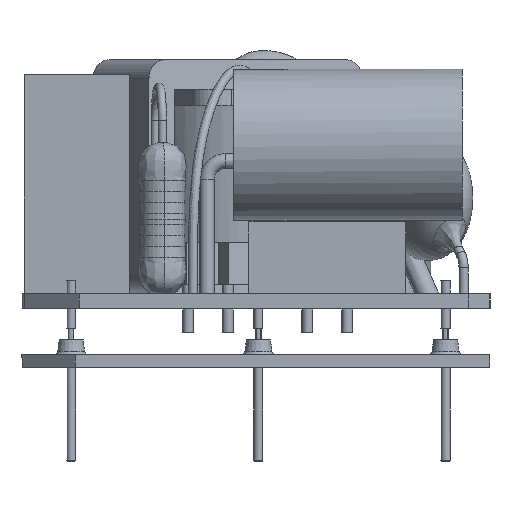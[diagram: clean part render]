
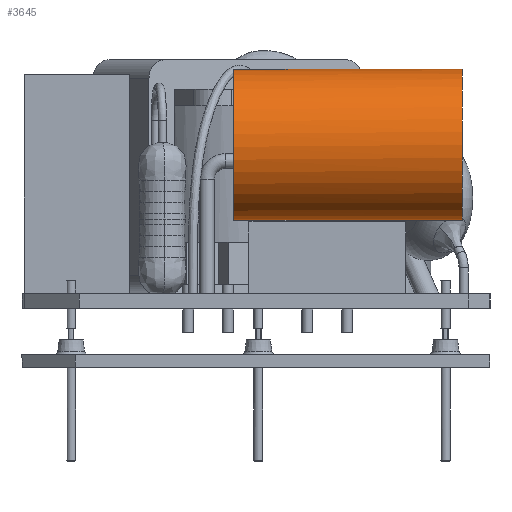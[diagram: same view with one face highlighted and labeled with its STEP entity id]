
A CAD part, left-side view. The second image highlights one B-rep face of the part: STEP entity #3645.
In plain terms, the highlighted cylindrical face has radius 4.1 mm (diameter 8.2 mm), a full revolution.
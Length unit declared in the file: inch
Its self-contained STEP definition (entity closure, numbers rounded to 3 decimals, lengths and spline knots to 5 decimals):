
#125 = CARTESIAN_POINT ( 'NONE',  ( 0.29105, 0.53164, 0.50031 ) ) ;
#170 = CARTESIAN_POINT ( 'NONE',  ( 0.26884, 0.53529, 0.5072 ) ) ;
#204 = CARTESIAN_POINT ( 'NONE',  ( 0.27362, 0.53328, 0.50604 ) ) ;
#274 = CIRCLE ( 'NONE', #5134, 0.16142 ) ;
#783 = DIRECTION ( 'NONE',  ( 0., 0., -1. ) ) ;
#931 = CARTESIAN_POINT ( 'NONE',  ( 0.25515, 0.54329, 0.5097 ) ) ;
#1008 = ORIENTED_EDGE ( 'NONE', *, *, #2872, .T. ) ;
#1044 = CARTESIAN_POINT ( 'NONE',  ( 0.28376, 0.54724, 0.50293 ) ) ;
#1077 = CARTESIAN_POINT ( 'NONE',  ( 0.29193, 0.53266, 0.49996 ) ) ;
#1225 = DIRECTION ( 'NONE',  ( 0., 0., -1. ) ) ;
#1567 = DIRECTION ( 'NONE',  ( 0., -1., 0. ) ) ;
#1679 = FACE_OUTER_BOUND ( 'NONE', #5445, .T. ) ;
#1841 = CARTESIAN_POINT ( 'NONE',  ( 0.29234, 0.5354, 0.4998 ) ) ;
#1866 = CARTESIAN_POINT ( 'NONE',  ( 0.28991, 0.54027, 0.50074 ) ) ;
#1950 = CARTESIAN_POINT ( 'NONE',  ( 0.28571, 0.54543, 0.50228 ) ) ;
#2326 = CIRCLE ( 'NONE', #6741, 0.16142 ) ;
#2745 = CARTESIAN_POINT ( 'NONE',  ( 0.28753, 0.5435, 0.50164 ) ) ;
#2872 = EDGE_CURVE ( 'NONE', #4035, #9687, #2326, .T. ) ;
#3631 = CARTESIAN_POINT ( 'NONE',  ( 0.28736, 0.53058, 0.50169 ) ) ;
#3645 = ADVANCED_FACE ( 'NONE', ( #7545, #1679 ), #6838, .T. ) ;
#3700 = CARTESIAN_POINT ( 'NONE',  ( 0.29047, 0.53131, 0.50053 ) ) ;
#3918 = CARTESIAN_POINT ( 'NONE',  ( 0.28376, 0.54724, 0.50293 ) ) ;
#4035 = VERTEX_POINT ( 'NONE', #10153 ) ;
#4084 = DIRECTION ( 'NONE',  ( 0., -1., 0. ) ) ;
#4552 = CARTESIAN_POINT ( 'NONE',  ( 0.28867, 0.53065, 0.50121 ) ) ;
#4651 = AXIS2_PLACEMENT_3D ( 'NONE', #7801, #4084, #10405 ) ;
#5134 = AXIS2_PLACEMENT_3D ( 'NONE', #10208, #11080, #1225 ) ;
#5404 = ORIENTED_EDGE ( 'NONE', *, *, #10117, .F. ) ;
#5445 = EDGE_LOOP ( 'NONE', ( #1008, #5404 ) ) ;
#6021 = CARTESIAN_POINT ( 'NONE',  ( 0.23266, 0.05906, 0.1884 ) ) ;
#6329 = CARTESIAN_POINT ( 'NONE',  ( 0.29183, 0.53672, 0.5 ) ) ;
#6337 = ORIENTED_EDGE ( 'NONE', *, *, #9556, .F. ) ;
#6405 = CARTESIAN_POINT ( 'NONE',  ( 0.25149, 0.54724, 0.51014 ) ) ;
#6511 = EDGE_LOOP ( 'NONE', ( #6337 ) ) ;
#6741 = AXIS2_PLACEMENT_3D ( 'NONE', #7856, #1567, #783 ) ;
#6838 = CYLINDRICAL_SURFACE ( 'NONE', #4651, 0.16142 ) ;
#6859 = B_SPLINE_CURVE_WITH_KNOTS ( 'NONE', 3,
 ( #6405, #931, #7228, #170, #204, #8083, #8115, #3631, #4552, #3700, #125, #1077, #8993, #1841, #6329, #9865, #1866, #2745, #1950, #1044 ),
 .UNSPECIFIED., .F., .F.,
 ( 4, 2, 2, 2, 2, 2, 2, 2, 2, 4 ),
 ( -0.00144, -0.00103, -0.00061, -0.0004, -0.0003, -0.00025, -0.00019, -0.00009, 0.00001, 0.00022 ),
 .UNSPECIFIED. ) ;
#7228 = CARTESIAN_POINT ( 'NONE',  ( 0.25959, 0.54034, 0.50904 ) ) ;
#7545 = FACE_OUTER_BOUND ( 'NONE', #6511, .T. ) ;
#7801 = CARTESIAN_POINT ( 'NONE',  ( 0.23266, 0.54724, 0.34982 ) ) ;
#7856 = CARTESIAN_POINT ( 'NONE',  ( 0.23266, 0.54724, 0.34982 ) ) ;
#8083 = CARTESIAN_POINT ( 'NONE',  ( 0.28108, 0.53122, 0.50383 ) ) ;
#8115 = CARTESIAN_POINT ( 'NONE',  ( 0.28359, 0.53068, 0.50302 ) ) ;
#8993 = CARTESIAN_POINT ( 'NONE',  ( 0.29218, 0.53332, 0.49986 ) ) ;
#9556 = EDGE_CURVE ( 'NONE', #9646, #9646, #274, .T. ) ;
#9646 = VERTEX_POINT ( 'NONE', #6021 ) ;
#9687 = VERTEX_POINT ( 'NONE', #3918 ) ;
#9865 = CARTESIAN_POINT ( 'NONE',  ( 0.29065, 0.53914, 0.50046 ) ) ;
#10117 = EDGE_CURVE ( 'NONE', #4035, #9687, #6859, .T. ) ;
#10153 = CARTESIAN_POINT ( 'NONE',  ( 0.25149, 0.54724, 0.51014 ) ) ;
#10208 = CARTESIAN_POINT ( 'NONE',  ( 0.23266, 0.05906, 0.34982 ) ) ;
#10405 = DIRECTION ( 'NONE',  ( 0., 0., -1. ) ) ;
#11080 = DIRECTION ( 'NONE',  ( 0., -1., 0. ) ) ;
